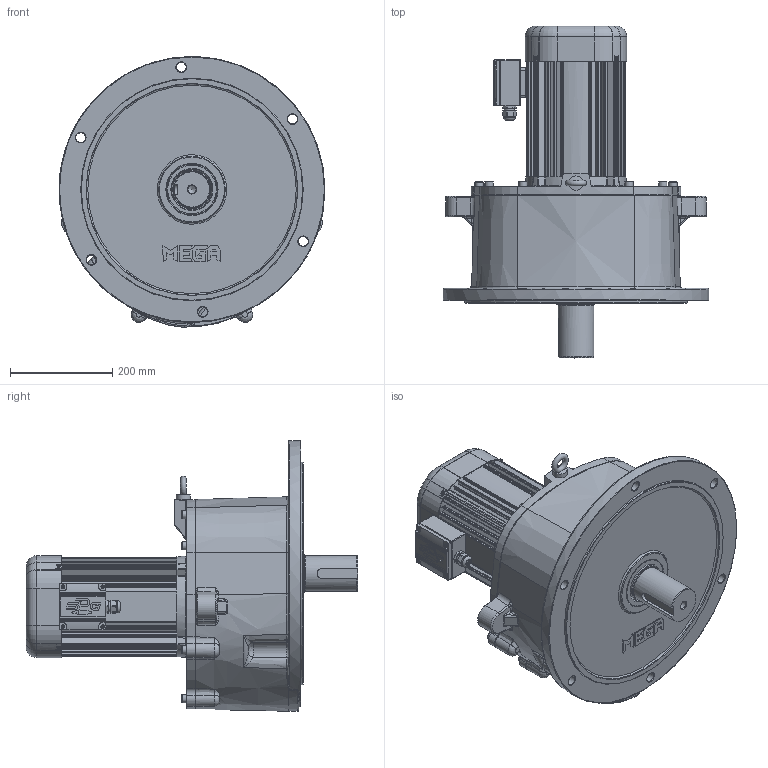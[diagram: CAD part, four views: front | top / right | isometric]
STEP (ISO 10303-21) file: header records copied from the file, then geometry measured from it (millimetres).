
FILE_DESCRIPTION(/* description */ (''),/* implementation_level */ '2;1');
FILE_NAME(/* name */ 'Z:\동력 3D 파일\PMK270_2.2kW_3D.stp',/* time_stamp */ '2021-12-01T09:28:45+09:00',/* author */ ('jaebok'),/* organization */ (''),/* preprocessor_version */ 'ST-DEVELOPER v18.1',/* originating_system */ 'Autodesk Inventor 2022',/* authorisation */ '');
FILE_SCHEMA (('AUTOMOTIVE_DESIGN { 1 0 10303 214 3 1 1 }'));
Products named in the file (1): 부품14
Bounding box: 519.84 x 649 x 529.84 mm (x, y, z)
Volume: 16240423.6 mm3; surface area: 2285415.9 mm2
Topology: 10 solids, 33 shells, 3276 faces, 8272 edges, 5040 vertices
Faces by surface type: plane 1071, cylinder 914, bspline 628, torus 308, cone 240, sphere 115
Full cylindrical faces by diameter (mm): 3.25 x1, 3.5 x4, 3.6 x4, 4 x21, 5 x13, 6 x5, 6.647 x4, 7 x8, 8 x5, 9 x4, 10 x10, 10.106 x2, 12 x9, 12.5 x1, 13.835 x9, 15 x1, 16 x9, 17 x8, 19 x6, 20 x2, 21 x1, 23.6 x1, 24 x1, 25 x1, 28 x1, 31 x1, 36 x1, 48 x1, 50 x1, 55 x1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
Entity records: 129292 total; most frequent: CARTESIAN_POINT 50497, ORIENTED_EDGE 16232, DIRECTION 15507, EDGE_CURVE 8116, AXIS2_PLACEMENT_3D 6250, VERTEX_POINT 5043, EDGE_LOOP 3535, CIRCLE 3466
